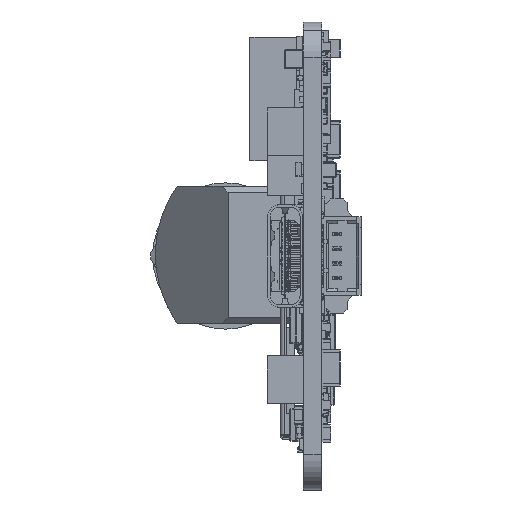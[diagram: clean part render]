
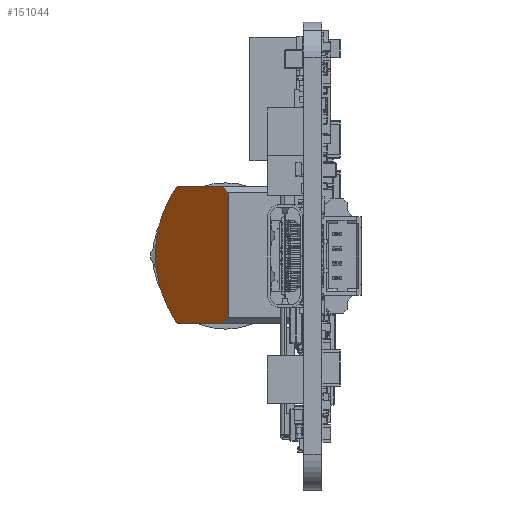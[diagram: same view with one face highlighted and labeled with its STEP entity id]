
A CAD part, left-side view. The second image highlights one B-rep face of the part: STEP entity #151044.
In plain terms, the highlighted planar face has unit normal (0.707, -0.707, 0).
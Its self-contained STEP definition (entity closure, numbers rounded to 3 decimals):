
#1041 = EDGE_CURVE ( 'NONE', #179585, #247029, #154266, .T. ) ;
#1937 = CARTESIAN_POINT ( 'NONE',  ( 43.356, 6.45, 5.452 ) ) ;
#3003 = ORIENTED_EDGE ( 'NONE', *, *, #1041, .T. ) ;
#7132 = CARTESIAN_POINT ( 'NONE',  ( 47.701, 10.794, 5.952 ) ) ;
#8341 = LINE ( 'NONE', #219306, #44801 ) ;
#11358 = EDGE_CURVE ( 'NONE', #18481, #241663, #80020, .T. ) ;
#18481 = VERTEX_POINT ( 'NONE', #83765 ) ;
#22719 = ORIENTED_EDGE ( 'NONE', *, *, #266210, .T. ) ;
#37973 = ORIENTED_EDGE ( 'NONE', *, *, #57874, .T. ) ;
#42442 = VERTEX_POINT ( 'NONE', #221457 ) ;
#44801 = VECTOR ( 'NONE', #170269, 1000. ) ;
#47260 = CARTESIAN_POINT ( 'NONE',  ( 47.701, 10.794, -5.748 ) ) ;
#49648 = CARTESIAN_POINT ( 'NONE',  ( 49.556, 12.65, -5.748 ) ) ;
#57874 = EDGE_CURVE ( 'NONE', #196866, #42442, #223963, .T. ) ;
#60265 = ORIENTED_EDGE ( 'NONE', *, *, #11358, .T. ) ;
#72983 = DIRECTION ( 'NONE',  ( 0.707, 0.707, 0. ) ) ;
#73390 = CARTESIAN_POINT ( 'NONE',  ( 43.856, 6.95, 5.952 ) ) ;
#80020 =( BOUNDED_CURVE ( )  B_SPLINE_CURVE ( 3, ( #47260, #174149, #256649, #7132 ),
 .UNSPECIFIED., .F., .F. ) 
 B_SPLINE_CURVE_WITH_KNOTS ( ( 4, 4 ),
 ( 5.669, 6.898 ),
 .UNSPECIFIED. ) 
 CURVE ( )  GEOMETRIC_REPRESENTATION_ITEM ( )  RATIONAL_B_SPLINE_CURVE ( ( 1., 0.878, 0.878, 1. ) ) 
 REPRESENTATION_ITEM ( '' )  );
#83765 = CARTESIAN_POINT ( 'NONE',  ( 47.701, 10.794, -5.748 ) ) ;
#95724 = CARTESIAN_POINT ( 'NONE',  ( 43.356, 6.45, -5.248 ) ) ;
#98458 = DIRECTION ( 'NONE',  ( 0.577, 0.577, -0.577 ) ) ;
#102387 = VECTOR ( 'NONE', #253445, 1000. ) ;
#104208 = FACE_OUTER_BOUND ( 'NONE', #155269, .T. ) ;
#124541 = VECTOR ( 'NONE', #98458, 1000. ) ;
#139793 = AXIS2_PLACEMENT_3D ( 'NONE', #195068, #212979, #215716 ) ;
#140114 = EDGE_CURVE ( 'NONE', #247029, #196866, #250766, .T. ) ;
#151044 = ADVANCED_FACE ( 'NONE', ( #104208 ), #250182, .T. ) ;
#154266 = LINE ( 'NONE', #239519, #187301 ) ;
#155269 = EDGE_LOOP ( 'NONE', ( #244891, #37973, #218561, #60265, #22719, #3003 ) ) ;
#170269 = DIRECTION ( 'NONE',  ( -0.707, -0.707, 0. ) ) ;
#174149 = CARTESIAN_POINT ( 'NONE',  ( 50.26, 13.354, -2.119 ) ) ;
#175177 = LINE ( 'NONE', #49648, #188021 ) ;
#179585 = VERTEX_POINT ( 'NONE', #73390 ) ;
#187301 = VECTOR ( 'NONE', #238202, 1000. ) ;
#188021 = VECTOR ( 'NONE', #72983, 1000. ) ;
#190410 = CARTESIAN_POINT ( 'NONE',  ( 43.356, 6.45, -5.248 ) ) ;
#195068 = CARTESIAN_POINT ( 'NONE',  ( 49.556, 12.65, -5.748 ) ) ;
#196866 = VERTEX_POINT ( 'NONE', #190410 ) ;
#208353 = CARTESIAN_POINT ( 'NONE',  ( 47.701, 10.794, 5.952 ) ) ;
#212979 = DIRECTION ( 'NONE',  ( 0.707, -0.707, 0. ) ) ;
#215716 = DIRECTION ( 'NONE',  ( 0., 0., 1. ) ) ;
#218561 = ORIENTED_EDGE ( 'NONE', *, *, #223614, .T. ) ;
#219306 = CARTESIAN_POINT ( 'NONE',  ( 49.556, 12.65, 5.952 ) ) ;
#221457 = CARTESIAN_POINT ( 'NONE',  ( 43.856, 6.95, -5.748 ) ) ;
#223614 = EDGE_CURVE ( 'NONE', #42442, #18481, #175177, .T. ) ;
#223963 = LINE ( 'NONE', #95724, #124541 ) ;
#238202 = DIRECTION ( 'NONE',  ( -0.577, -0.577, -0.577 ) ) ;
#239519 = CARTESIAN_POINT ( 'NONE',  ( 43.856, 6.95, 5.952 ) ) ;
#241663 = VERTEX_POINT ( 'NONE', #208353 ) ;
#244891 = ORIENTED_EDGE ( 'NONE', *, *, #140114, .T. ) ;
#247029 = VERTEX_POINT ( 'NONE', #1937 ) ;
#250182 = PLANE ( 'NONE',  #139793 ) ;
#250766 = LINE ( 'NONE', #270071, #102387 ) ;
#253445 = DIRECTION ( 'NONE',  ( 0., 0., -1. ) ) ;
#256649 = CARTESIAN_POINT ( 'NONE',  ( 50.26, 13.354, 2.323 ) ) ;
#266210 = EDGE_CURVE ( 'NONE', #241663, #179585, #8341, .T. ) ;
#270071 = CARTESIAN_POINT ( 'NONE',  ( 43.356, 6.45, -5.748 ) ) ;
